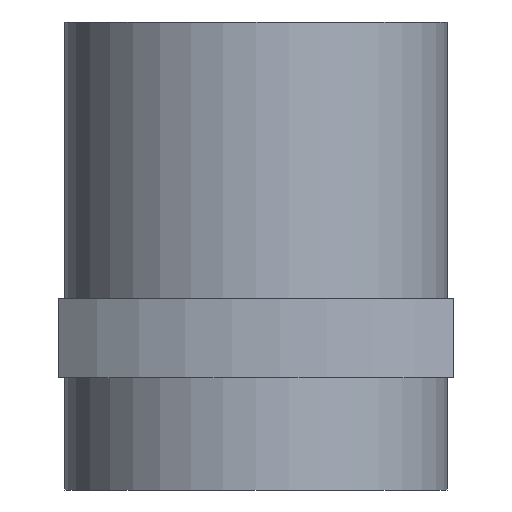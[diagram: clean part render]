
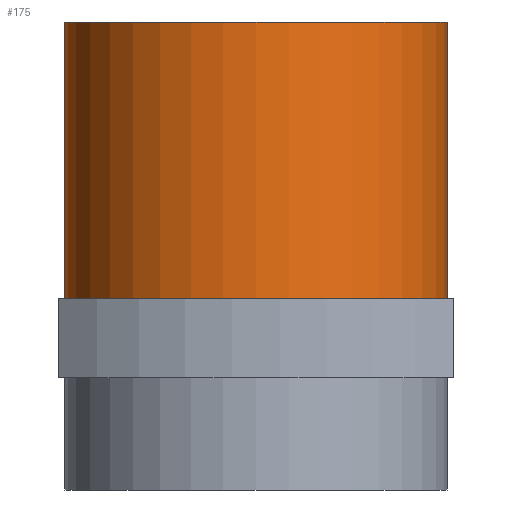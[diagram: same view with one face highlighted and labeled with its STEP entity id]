
A CAD part, front view. The second image highlights one B-rep face of the part: STEP entity #175.
In plain terms, the highlighted cylindrical face has radius 29 mm (diameter 58 mm), a full revolution.
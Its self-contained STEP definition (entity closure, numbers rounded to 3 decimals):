
#175=ADVANCED_FACE('',(#310,#312),#314,.T.);
#310=FACE_OUTER_BOUND('',#311,.T.);
#311=EDGE_LOOP('',(#377));
#312=FACE_OUTER_BOUND('',#313,.T.);
#313=EDGE_LOOP('',(#378));
#314=CYLINDRICAL_SURFACE('',#315,29.);
#315=AXIS2_PLACEMENT_3D('',#316,#317,#318);
#316=CARTESIAN_POINT('',(0.,0.,-1.));
#317=DIRECTION('',(0.,0.,1.));
#318=DIRECTION('',(1.,0.,0.));
#377=ORIENTED_EDGE('',*,*,#400,.F.);
#378=ORIENTED_EDGE('',*,*,#413,.T.);
#400=EDGE_CURVE('',#438,#438,#439,.T.);
#413=EDGE_CURVE('',#460,#460,#461,.T.);
#438=VERTEX_POINT('',#520);
#439=CIRCLE('',#521,29.);
#460=VERTEX_POINT('',#575);
#461=CIRCLE('',#576,29.);
#520=CARTESIAN_POINT('',(29.,0.,54.));
#521=AXIS2_PLACEMENT_3D('',#522,#523,#524);
#522=CARTESIAN_POINT('',(0.,0.,54.));
#523=DIRECTION('',(0.,0.,1.));
#524=DIRECTION('',(1.,0.,0.));
#575=CARTESIAN_POINT('',(29.,0.,12.));
#576=AXIS2_PLACEMENT_3D('',#577,#578,#579);
#577=CARTESIAN_POINT('',(0.,0.,12.));
#578=DIRECTION('',(0.,0.,1.));
#579=DIRECTION('',(1.,0.,0.));
